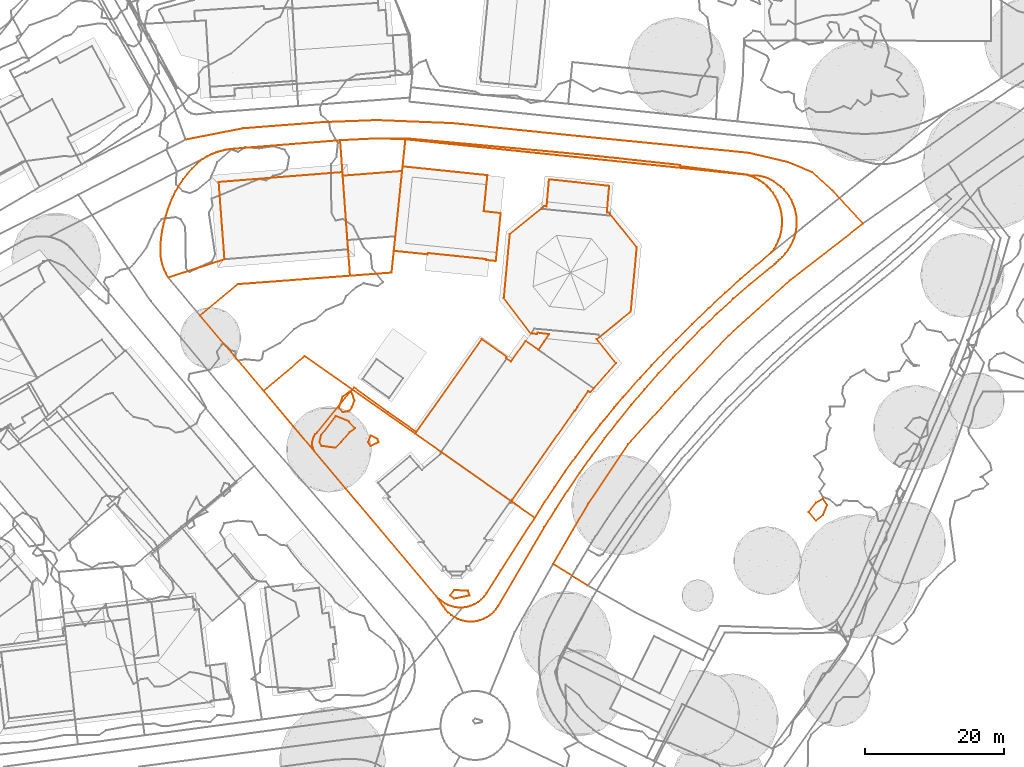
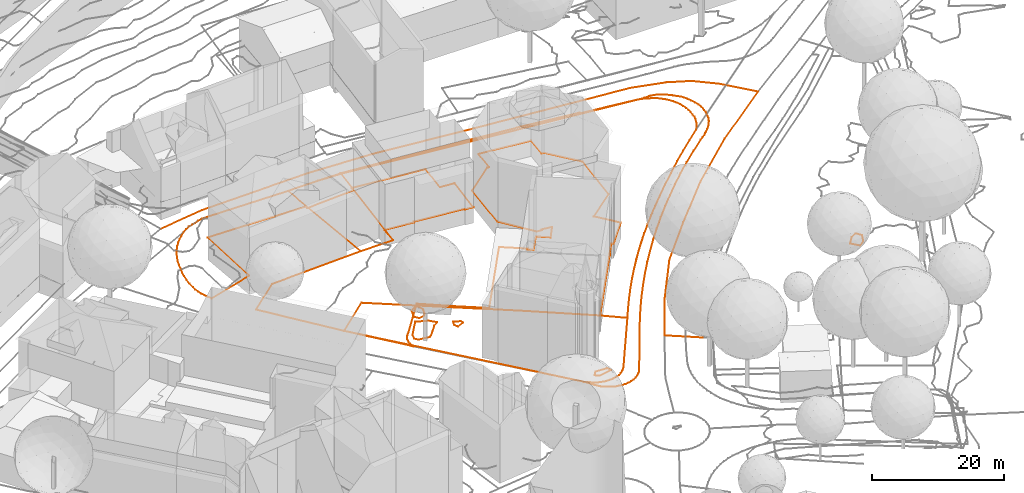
# Not in any storey, part 195 of 494: 13 proxies.
"""IFC2X3 model written with IfcOpenShell, lengths in metres."""

import ifcopenshell
import ifcopenshell.guid

model = None  # the IFC model being written
_history = None  # IfcOwnerHistory: only IFC2X3 demands one
_inside = {}  # id of a spatial element -> (the spatial element, [elements in it])
_under = {}  # id of a project, library or spatial element -> (it, [spatial elements below it])
_declared = {}  # id of a project -> (the project, [libraries it declares])
_typed = {}  # id of a type object -> (the type object, [elements of that type])
_made_of = {}  # id of a material, layer set ... -> (it, [elements and type objects made of it])


def new_model(schema):
    """Start an empty IFC model of exactly this schema.

    Asked for "IFC4X3", IfcOpenShell would pick the latest addendum, in which some entities
    have other attributes; the version numbers below select the first issue.
    IFC2X3 requires an IfcOwnerHistory on every rooted entity: one is made here for all.
    """
    global model, _history
    if schema == "IFC4X3":
        model = ifcopenshell.file(schema_version=(4, 3, 0, 0))
    else:
        model = ifcopenshell.file(schema=schema)
    _inside.clear()
    _under.clear()
    _declared.clear()
    _typed.clear()
    _made_of.clear()
    _history = None
    if model.schema == "IFC2X3":
        org = make("IfcOrganization", Name="unknown")
        user = make(
            "IfcPersonAndOrganization",
            ThePerson=make("IfcPerson", FamilyName="unknown"),
            TheOrganization=org,
        )
        app = make(
            "IfcApplication",
            ApplicationDeveloper=org,
            Version="unknown",
            ApplicationFullName="unknown",
            ApplicationIdentifier="unknown",
        )
        _history = make(
            "IfcOwnerHistory",
            OwningUser=user,
            OwningApplication=app,
            ChangeAction="ADDED",
            CreationDate=0,
        )
    return model


def make(cls, **values):
    """One entity of the class cls with the attributes given. An attribute that is None is left unset."""
    return model.create_entity(
        cls, **{name: value for name, value in values.items() if value is not None}
    )


def entity(cls, *values):
    """Any entity or typed value of the class cls, its attributes in the order of the schema. None: left unset."""
    e = model.create_entity(cls)
    for i, value in enumerate(values):
        if value is not None:
            e[i] = value
    return e


def rooted(cls, **values):
    """An entity with a GlobalId (a new one), such as an element, a storey or a relation."""
    return make(cls, GlobalId=ifcopenshell.guid.new(), OwnerHistory=_history, **values)


def si_unit(unit_type, name, prefix=None):
    """IfcSIUnit, for example si_unit("LENGTHUNIT", "METRE", prefix="MILLI")."""
    return make("IfcSIUnit", UnitType=unit_type, Prefix=prefix, Name=name)


def assignment(units):
    """IfcUnitAssignment: the units of a project."""
    return None if units is None else make("IfcUnitAssignment", Units=units)


def point(xyz):
    """IfcCartesianPoint."""
    return None if xyz is None else make("IfcCartesianPoint", Coordinates=xyz)


def direction(xyz):
    """IfcDirection."""
    return None if xyz is None else make("IfcDirection", DirectionRatios=xyz)


def frame(location, z_axis=None, x_axis=None):
    """IfcAxis2Placement3D, a coordinate frame: its origin and axes. An axis left out is left unset."""
    return make(
        "IfcAxis2Placement3D",
        Location=point(location),
        Axis=direction(z_axis),
        RefDirection=direction(x_axis),
    )


def origin_with_axes():
    """The frame at (0, 0, 0) with the z axis (0, 0, 1) and the x axis (1, 0, 0) written out."""
    return frame((0.0, 0.0, 0.0), z_axis=(0.0, 0.0, 1.0), x_axis=(1.0, 0.0, 0.0))


def place(relative_to, where):
    """IfcLocalPlacement: puts the frame where relative to a parent placement (None: the world)."""
    return make(
        "IfcLocalPlacement", PlacementRelTo=relative_to, RelativePlacement=where
    )


def context(
    kind, dimensions, precision=None, world=None, true_north=None, identifier=None
):
    """IfcGeometricRepresentationContext, for example the 3D "Model" context."""
    return make(
        "IfcGeometricRepresentationContext",
        ContextIdentifier=identifier,
        ContextType=kind,
        CoordinateSpaceDimension=dimensions,
        Precision=precision,
        WorldCoordinateSystem=world,
        TrueNorth=true_north,
    )


def subcontext(parent, identifier, kind, view, scale=None):
    """IfcGeometricRepresentationSubContext, for example "Body" below "Model"."""
    return make(
        "IfcGeometricRepresentationSubContext",
        ContextIdentifier=identifier,
        ContextType=kind,
        ParentContext=parent,
        TargetScale=scale,
        TargetView=view,
    )


def project(units=None, contexts=None):
    """IfcProject with its units and contexts."""
    return rooted(
        "IfcProject",
        Name="project",
        RepresentationContexts=contexts,
        UnitsInContext=assignment(units),
    )


def shape(context_of_items, identifier, shape_type, items):
    """IfcShapeRepresentation: the items that make up one representation, for example the "Body"."""
    return make(
        "IfcShapeRepresentation",
        ContextOfItems=context_of_items,
        RepresentationIdentifier=identifier,
        RepresentationType=shape_type,
        Items=items,
    )


def made_of(thing, what):
    """Note that an element or type object is made of a material, layer set ...; save() writes the relation."""
    if what is not None:
        _made_of.setdefault(what.id(), (what, []))[1].append(thing)
    return thing


def element(
    cls,
    number,
    at=None,
    inside=None,
    cuts=None,
    type_object=None,
    material=None,
    context=None,
    identifier="Body",
    shape_type=None,
    held_by="IfcProductDefinitionShape",
    body=None,
    shapes=None,
    **own,
):
    """One element of the class cls, such as IfcWall. Its Tag is "e" and its number.

    at: its placement. inside: the storey or other place that contains it. cuts: it is an
    opening in that element (IfcRelVoidsElement). A single representation is given by context,
    identifier, shape_type and body (its items); several are given by shapes. held_by: the class
    of the entity that holds the representations. save() writes the other relations.
    """
    e = rooted(cls, Tag="e%d" % number, ObjectPlacement=at, **own)
    if body is not None:
        shapes = [shape(context, identifier, shape_type, body)]
    if shapes is not None:
        e.Representation = make(held_by, Representations=shapes)
    if inside is not None:
        _inside.setdefault(inside.id(), (inside, []))[1].append(e)
    if cuts is not None:
        rooted(
            "IfcRelVoidsElement", RelatingBuildingElement=cuts, RelatedOpeningElement=e
        )
    if type_object is not None:
        _typed.setdefault(type_object.id(), (type_object, []))[1].append(e)
    return made_of(e, material)


def aggregate(whole, parts):
    """IfcRelAggregates: a whole, such as a stair, and the parts it consists of."""
    return rooted("IfcRelAggregates", RelatingObject=whole, RelatedObjects=parts)


def save(model, path):
    """Write the relations noted so far, then the file.

    IfcRelAggregates (storeys below a building ...), IfcRelContainedInSpatialStructure (elements
    in a storey), IfcRelDefinesByType, IfcRelAssociatesMaterial and IfcRelDeclares: one each for
    every whole, place, type object, material and project.
    """
    for whole, parts in _under.values():
        aggregate(whole, parts)
    for where, things in _inside.values():
        rooted(
            "IfcRelContainedInSpatialStructure",
            RelatedElements=things,
            RelatingStructure=where,
        )
    for kind, things in _typed.values():
        rooted("IfcRelDefinesByType", RelatedObjects=things, RelatingType=kind)
    for what, things in _made_of.values():
        rooted("IfcRelAssociatesMaterial", RelatedObjects=things, RelatingMaterial=what)
    for by, libraries in _declared.values():
        rooted("IfcRelDeclares", RelatingContext=by, RelatedDefinitions=libraries)
    model.write(path)


model = new_model("IFC2X3")

# Units and contexts
model_context = context("Model", 3, precision=1e-05, world=origin_with_axes())
body_context = subcontext(model_context, "Body", "Model", "MODEL_VIEW")
ifc_project = project(units=[si_unit("AREAUNIT", "SQUARE_METRE"), si_unit("LENGTHUNIT", "METRE")], contexts=[model_context])

# Proxies
proxy_1_placement = place(None, frame((595.900732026, 212.6687366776, 502.45), z_axis=(0.0, 0.0, 1.0), x_axis=(1.0, 0.0, 0.0)))
element("IfcBuildingElementProxy", 1, at=proxy_1_placement, Name="Road 128", ObjectType="NOTDEFINED", context=body_context, shape_type="GeometricCurveSet", body=[
    entity("IfcGeometricCurveSet", [entity("IfcPolyline", [entity("IfcCartesianPoint", [0.0, 0.0, 0.0]), entity("IfcCartesianPoint", [5.0779999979, 8.7149997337, -0.186]), entity("IfcCartesianPoint", [10.805999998, 17.2319994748, -0.217]), entity("IfcCartesianPoint", [17.5610000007, 24.7209992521, -0.237]), entity("IfcCartesianPoint", [25.1959999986, 32.7969990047, -0.33]), entity("IfcCartesianPoint", [34.0069999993, 40.7269987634, -0.301]), entity("IfcCartesianPoint", [44.5799999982, 48.9509985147, -0.295])])]),
])
proxy_2_placement = place(None, frame((543.1227320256, 273.6597348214, 503.61), z_axis=(0.0, 0.0, 1.0), x_axis=(1.0, 0.0, 0.0)))
element("IfcBuildingElementProxy", 2, at=proxy_2_placement, Name="Road 158", ObjectType="NOTDEFINED", context=body_context, shape_type="GeometricCurveSet", body=[
    entity("IfcGeometricCurveSet", [entity("IfcPolyline", [entity("IfcCartesianPoint", [0.0, 0.0, 0.0]), entity("IfcCartesianPoint", [8.2239999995, 1.6159999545, -0.385]), entity("IfcCartesianPoint", [19.6779999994, 2.4969999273, -0.881]), entity("IfcCartesianPoint", [27.4600000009, 2.7909999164, -0.976]), entity("IfcCartesianPoint", [38.3260000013, 2.3499999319, -1.045]), entity("IfcCartesianPoint", [56.9750000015, 0.4409999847, -1.126]), entity("IfcCartesianPoint", [80.910999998, -1.9089999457, -1.165]), entity("IfcCartesianPoint", [86.4910000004, -3.2299998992, -1.281]), entity("IfcCartesianPoint", [90.0150000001, -4.6989998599, -1.377]), entity("IfcCartesianPoint", [93.098999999, -7.4889997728, -1.265]), entity("IfcCartesianPoint", [97.3579999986, -12.0399996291, -1.455])])]),
])
proxy_3_placement = place(None, frame((595.900732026, 212.6687366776, 502.45), z_axis=(0.0, 0.0, 1.0), x_axis=(1.0, 0.0, 0.0)))
element("IfcBuildingElementProxy", 3, at=proxy_3_placement, Name="Road 188", ObjectType="NOTDEFINED", context=body_context, shape_type="GeometricCurveSet", body=[
    entity("IfcGeometricCurveSet", [entity("IfcPolyline", [entity("IfcCartesianPoint", [4.9919999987, -3.0839999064, -0.274]), entity("IfcCartesianPoint", [0.0, 0.0, 0.0])])]),
])
proxy_4_placement = place(None, frame((579.1977320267, 208.0077160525, 502.5564007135), z_axis=(0.0, 0.0, 1.0), x_axis=(1.0, 0.0, 0.0)))
element("IfcBuildingElementProxy", 4, at=proxy_4_placement, Name="Roads Outline 83", ObjectType="NOTDEFINED", context=body_context, shape_type="GeometricCurveSet", body=[
    entity("IfcGeometricCurveSet", [entity("IfcPolyline", [entity("IfcCartesianPoint", [0.0, 0.0, 0.0]), entity("IfcCartesianPoint", [0.3590000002, -0.3800000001, 0.0424527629]), entity("IfcCartesianPoint", [0.7600000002, -0.7150000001, 0.0752232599]), entity("IfcCartesianPoint", [1.1979999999, -1.0009999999, 0.0715688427]), entity("IfcCartesianPoint", [1.6660000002, -1.2339999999, 0.0623619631]), entity("IfcCartesianPoint", [2.1579999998, -1.4100000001, 0.0692452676]), entity("IfcCartesianPoint", [2.6680000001, -1.5279999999, 0.0791574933]), entity("IfcCartesianPoint", [3.1869999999, -1.584, 0.0808113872]), entity("IfcCartesianPoint", [3.71, -1.5800000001, 0.0688471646]), entity("IfcCartesianPoint", [4.2999999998, -1.4980000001, 0.059788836]), entity("IfcCartesianPoint", [4.8739999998, -1.3370000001, 0.0523966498]), entity("IfcCartesianPoint", [5.4210000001, -1.102, 0.0639608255]), entity("IfcCartesianPoint", [5.932, -0.7949999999, 0.064186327]), entity("IfcCartesianPoint", [6.3969999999, -0.423, 0.0574889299]), entity("IfcCartesianPoint", [6.8089999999, 0.0079999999, 0.0643823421]), entity("IfcCartesianPoint", [7.159, 0.49, 0.0695829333]), entity("IfcCartesianPoint", [9.199, 3.7009999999, 0.0716071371]), entity("IfcCartesianPoint", [14.068, 11.3019999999, 0.0129032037]), entity("IfcCartesianPoint", [15.4750000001, 13.5349999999, 0.0167357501]), entity("IfcCartesianPoint", [16.9240000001, 15.7409999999, -0.0007565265]), entity("IfcCartesianPoint", [18.4169999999, 17.9180000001, -0.0260400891]), entity("IfcCartesianPoint", [19.9509999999, 20.0659999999, -0.0243885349]), entity("IfcCartesianPoint", [21.5270000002, 22.183, -0.0427461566]), entity("IfcCartesianPoint", [22.9360000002, 24.004, -0.0676520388]), entity("IfcCartesianPoint", [24.3769999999, 25.801, -0.0819419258]), entity("IfcCartesianPoint", [25.8480000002, 27.5729999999, -0.086486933]), entity("IfcCartesianPoint", [26.6880000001, 28.558, -0.1140318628]), entity("IfcCartesianPoint", [27.537, 29.534, -0.130143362]), entity("IfcCartesianPoint", [29.2000000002, 31.409, -0.1773657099]), entity("IfcCartesianPoint", [30.898, 33.253, -0.2167131]), entity("IfcCartesianPoint", [32.6299999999, 35.0649999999, -0.2143534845]), entity("IfcCartesianPoint", [34.3960000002, 36.845, -0.2132758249]), entity("IfcCartesianPoint", [36.6970000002, 39.1510000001, -0.2264701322]), entity("IfcCartesianPoint", [39.0410000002, 41.415, -0.214907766]), entity("IfcCartesianPoint", [41.4249999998, 43.6359999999, -0.2213220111]), entity("IfcCartesianPoint", [43.6000000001, 45.5929999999, -0.2131289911]), entity("IfcCartesianPoint", [45.807, 47.513, -0.2358274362]), entity("IfcCartesianPoint", [48.0449999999, 49.3969999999, -0.2433498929]), entity("IfcCartesianPoint", [48.443, 49.9350000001, -0.2273266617]), entity("IfcCartesianPoint", [48.7880000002, 50.5079999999, -0.2118206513]), entity("IfcCartesianPoint", [49.077, 51.112, -0.1869081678]), entity("IfcCartesianPoint", [49.3059999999, 51.7409999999, -0.1574470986]), entity("IfcCartesianPoint", [49.4750000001, 52.388, -0.1746721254]), entity("IfcCartesianPoint", [49.5810000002, 53.0489999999, -0.1814962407]), entity("IfcCartesianPoint", [49.6239999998, 53.7169999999, -0.1829092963]), entity("IfcCartesianPoint", [49.611, 54.371, -0.18296651]), entity("IfcCartesianPoint", [49.537, 55.0219999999, -0.1664368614]), entity("IfcCartesianPoint", [49.4029999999, 55.662, -0.1312933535]), entity("IfcCartesianPoint", [49.21, 56.2879999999, -0.1008875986]), entity("IfcCartesianPoint", [48.9590000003, 56.892, -0.0839931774]), entity("IfcCartesianPoint", [48.6529999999, 57.4709999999, -0.1032972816]), entity("IfcCartesianPoint", [48.2940000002, 58.0179999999, -0.0991256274]), entity("IfcCartesianPoint", [47.8880000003, 58.514, -0.0910940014]), entity("IfcCartesianPoint", [47.4369999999, 58.9709999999, -0.1089391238]), entity("IfcCartesianPoint", [46.9470000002, 59.3840000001, -0.0757517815]), entity("IfcCartesianPoint", [46.4210000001, 59.7509999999, -0.1313915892]), entity("IfcCartesianPoint", [45.8640000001, 60.068, -0.1866870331]), entity("IfcCartesianPoint", [45.0320000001, 60.4919999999, -0.1698836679]), entity("IfcCartesianPoint", [45.4590000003, 60.5, -0.1602965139]), entity("IfcCartesianPoint", [45.8850000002, 60.483, -0.1526318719]), entity("IfcCartesianPoint", [46.1940000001, 60.4550000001, -0.1390029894]), entity("IfcCartesianPoint", [46.5019999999, 60.4139999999, -0.1187599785]), entity("IfcCartesianPoint", [47.0090000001, 60.287, -0.0747958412]), entity("IfcCartesianPoint", [47.5010000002, 60.1129999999, -0.0774243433]), entity("IfcCartesianPoint", [47.9750000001, 59.892, -0.0774395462]), entity("IfcCartesianPoint", [48.4939999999, 59.5789999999, -0.0932857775]), entity("IfcCartesianPoint", [48.9750000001, 59.2109999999, -0.1044669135]), entity("IfcCartesianPoint", [49.4530000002, 58.852, -0.1333072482]), entity("IfcCartesianPoint", [49.895, 58.449, -0.1626700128]), entity("IfcCartesianPoint", [50.2960000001, 58.0060000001, -0.1397016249]), entity("IfcCartesianPoint", [50.6520000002, 57.5260000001, -0.1413005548]), entity("IfcCartesianPoint", [50.9670000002, 56.9569999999, -0.1656156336]), entity("IfcCartesianPoint", [51.2119999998, 56.3540000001, -0.1809267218]), entity("IfcCartesianPoint", [51.4580000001, 55.6439999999, -0.2098822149]), entity("IfcCartesianPoint", [51.6460000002, 54.9169999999, -0.2201493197]), entity("IfcCartesianPoint", [51.7179999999, 54.3119999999, -0.224620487]), entity("IfcCartesianPoint", [51.7349999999, 53.702, -0.2256994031]), entity("IfcCartesianPoint", [51.7110000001, 53.2519999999, -0.2329984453]), entity("IfcCartesianPoint", [51.6570000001, 52.804, -0.2397121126]), entity("IfcCartesianPoint", [51.5970000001, 52.4979999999, -0.2438920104]), entity("IfcCartesianPoint", [51.5290000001, 52.1939999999, -0.2503272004]), entity("IfcCartesianPoint", [51.3829999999, 51.6529999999, -0.2677885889]), entity("IfcCartesianPoint", [51.2080000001, 51.121, -0.2700185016]), entity("IfcCartesianPoint", [50.8709999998, 50.4299999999, -0.2721337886]), entity("IfcCartesianPoint", [50.466, 49.7760000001, -0.2870448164]), entity("IfcCartesianPoint", [50.0699999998, 49.2549999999, -0.2871296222]), entity("IfcCartesianPoint", [49.6310000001, 48.7689999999, -0.273504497]), entity("IfcCartesianPoint", [49.1520000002, 48.3219999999, -0.2785278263]), entity("IfcCartesianPoint", [48.861, 48.03, -0.2796414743]), entity("IfcCartesianPoint", [48.5610000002, 47.7490000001, -0.293823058]), entity("IfcCartesianPoint", [47.969, 47.287, -0.3117227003]), entity("IfcCartesianPoint", [47.3790000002, 46.821, -0.2851792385]), entity("IfcCartesianPoint", [44.9679999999, 44.8300000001, -0.2864771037]), entity("IfcCartesianPoint", [42.6069999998, 42.78, -0.2795153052]), entity("IfcCartesianPoint", [40.298, 40.672, -0.2417386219]), entity("IfcCartesianPoint", [38.145, 38.6040000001, -0.2767343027]), entity("IfcCartesianPoint", [36.0410000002, 36.487, -0.2404656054]), entity("IfcCartesianPoint", [33.9390000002, 34.304, -0.2642361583]), entity("IfcCartesianPoint", [31.8840000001, 32.0759999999, -0.2096940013]), entity("IfcCartesianPoint", [29.8760000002, 29.8059999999, -0.208683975]), entity("IfcCartesianPoint", [27.9169999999, 27.4939999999, -0.184873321]), entity("IfcCartesianPoint", [26.0070000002, 25.1410000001, -0.1868196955]), entity("IfcCartesianPoint", [24.1469999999, 22.7479999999, -0.1558668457]), entity("IfcCartesianPoint", [22.2999999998, 20.264, -0.1449114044]), entity("IfcCartesianPoint", [20.5060000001, 17.7409999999, -0.1295588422]), entity("IfcCartesianPoint", [18.7680000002, 15.1799999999, -0.0829376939]), entity("IfcCartesianPoint", [17.085, 12.5819999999, -0.0790655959]), entity("IfcCartesianPoint", [15.4580000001, 9.949, -0.0855185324]), entity("IfcCartesianPoint", [8.8199999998, -1.352, -0.040741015]), entity("IfcCartesianPoint", [8.5070000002, -1.8160000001, -0.0063327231]), entity("IfcCartesianPoint", [8.139, -2.2390000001, 0.0148359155]), entity("IfcCartesianPoint", [7.7230000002, -2.6140000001, 0.0114550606]), entity("IfcCartesianPoint", [7.2650000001, -2.9350000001, 0.005221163]), entity("IfcCartesianPoint", [6.77, -3.1980000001, 0.0051696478]), entity("IfcCartesianPoint", [6.247, -3.399, 0.0088276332]), entity("IfcCartesianPoint", [5.7039999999, -3.5350000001, 0.0119191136]), entity("IfcCartesianPoint", [5.148, -3.6030000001, 0.0098638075]), entity("IfcCartesianPoint", [4.5950000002, -3.6030000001, 0.0089602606]), entity("IfcCartesianPoint", [4.0470000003, -3.5360000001, 0.0072576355]), entity("IfcCartesianPoint", [3.5100000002, -3.4040000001, 0.0046129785]), entity("IfcCartesianPoint", [2.9930000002, -3.2080000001, 0.0082097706]), entity("IfcCartesianPoint", [2.503, -2.952, 0.0040304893]), entity("IfcCartesianPoint", [2.0520000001, -2.642, -0.0033642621]), entity("IfcCartesianPoint", [1.6409999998, -2.28, -0.0291338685]), entity("IfcCartesianPoint", [1.2760000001, -1.872, -0.0330047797]), entity("IfcCartesianPoint", [0.9619999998, -1.4240000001, -0.0339466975]), entity("IfcCartesianPoint", [0.0, 0.0, 0.0])])]),
])
proxy_5_placement = place(None, frame((539.4997320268, 257.5777160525, 503.8674728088), z_axis=(0.0, 0.0, 1.0), x_axis=(1.0, 0.0, 0.0)))
element("IfcBuildingElementProxy", 5, at=proxy_5_placement, Name="Roads Outline 126", ObjectType="NOTDEFINED", context=body_context, shape_type="GeometricCurveSet", body=[
    entity("IfcGeometricCurveSet", [entity("IfcPolyline", [entity("IfcCartesianPoint", [0.0, 0.0, 0.0]), entity("IfcCartesianPoint", [0.0209999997, 1.0109999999, 0.0011616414]), entity("IfcCartesianPoint", [0.1069999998, 2.0189999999, 0.0406999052]), entity("IfcCartesianPoint", [0.2549999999, 3.0189999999, 0.0854804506]), entity("IfcCartesianPoint", [0.4669999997, 4.0079999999, 0.0940732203]), entity("IfcCartesianPoint", [0.7399999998, 4.9809999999, 0.1199991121]), entity("IfcCartesianPoint", [1.0189999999, 5.9469999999, 0.1523369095]), entity("IfcCartesianPoint", [1.3569999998, 6.8939999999, 0.1753311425]), entity("IfcCartesianPoint", [1.7549999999, 7.818, 0.1556252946]), entity("IfcCartesianPoint", [2.21, 8.7139999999, 0.1425921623]), entity("IfcCartesianPoint", [2.7199999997, 9.581, 0.1182464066]), entity("IfcCartesianPoint", [3.29, 10.406, 0.0866473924]), entity("IfcCartesianPoint", [3.9099999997, 11.1939999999, 0.0485062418]), entity("IfcCartesianPoint", [4.5789999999, 11.9409999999, 0.0063919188]), entity("IfcCartesianPoint", [5.2930000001, 12.6449999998, -0.0083320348]), entity("IfcCartesianPoint", [6.0499999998, 13.3019999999, 0.0060021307]), entity("IfcCartesianPoint", [6.6939999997, 13.6679999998, 0.0478167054]), entity("IfcCartesianPoint", [7.3629999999, 13.9849999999, 0.0887041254]), entity("IfcCartesianPoint", [8.054, 14.2529999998, 0.0795498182]), entity("IfcCartesianPoint", [8.7169999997, 14.4549999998, 0.056403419]), entity("IfcCartesianPoint", [9.3929999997, 14.6109999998, 0.1361446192]), entity("IfcCartesianPoint", [10.0779999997, 14.72, 0.1618897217]), entity("IfcCartesianPoint", [10.7689999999, 14.7819999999, 0.1468010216]), entity("IfcCartesianPoint", [25.8189999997, 15.9819999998, -0.9711102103]), entity("IfcCartesianPoint", [31.2369999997, 16.254, -1.1396515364]), entity("IfcCartesianPoint", [35.213, 16.2509999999, -1.161028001]), entity("IfcCartesianPoint", [56.1599999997, 14.345, -1.2730019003]), entity("IfcCartesianPoint", [58.4580000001, 14.125, -1.3057171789]), entity("IfcCartesianPoint", [60.7549999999, 13.8999999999, -1.3185954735]), entity("IfcCartesianPoint", [62.9199999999, 13.683, -1.3128490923]), entity("IfcCartesianPoint", [65.085, 13.4609999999, -1.3110824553]), entity("IfcCartesianPoint", [74.6459999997, 12.4249999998, -1.4734096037]), entity("IfcCartesianPoint", [74.6609999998, 12.254, -1.4860407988]), entity("IfcCartesianPoint", [84.1039999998, 11.0649999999, -1.5093764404]), entity("IfcCartesianPoint", [84.4210000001, 11.0089999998, -1.4919349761]), entity("IfcCartesianPoint", [84.73, 10.9219999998, -1.4809557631]), entity("IfcCartesianPoint", [85.5619999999, 10.4979999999, -1.4977591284]), entity("IfcCartesianPoint", [86.1189999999, 10.1809999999, -1.4424636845]), entity("IfcCartesianPoint", [86.645, 9.814, -1.3868238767]), entity("IfcCartesianPoint", [87.1349999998, 9.4009999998, -1.4200112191]), entity("IfcCartesianPoint", [87.5860000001, 8.9439999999, -1.4021660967]), entity("IfcCartesianPoint", [87.9920000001, 8.4479999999, -1.4101977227]), entity("IfcCartesianPoint", [88.3509999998, 7.9009999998, -1.4143693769]), entity("IfcCartesianPoint", [88.6570000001, 7.3219999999, -1.3950652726]), entity("IfcCartesianPoint", [88.9079999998, 6.7179999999, -1.4119596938]), entity("IfcCartesianPoint", [89.1009999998, 6.0919999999, -1.4423654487]), entity("IfcCartesianPoint", [89.2349999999, 5.4519999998, -1.4775089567]), entity("IfcCartesianPoint", [89.3089999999, 4.801, -1.4940386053]), entity("IfcCartesianPoint", [89.3219999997, 4.1469999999, -1.4939813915]), entity("IfcCartesianPoint", [89.2790000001, 3.4789999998, -1.492568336]), entity("IfcCartesianPoint", [89.173, 2.818, -1.4857442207]), entity("IfcCartesianPoint", [89.0039999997, 2.1709999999, -1.4685191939]), entity("IfcCartesianPoint", [88.7749999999, 1.5419999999, -1.4979802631]), entity("IfcCartesianPoint", [88.486, 0.9379999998, -1.5228927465]), entity("IfcCartesianPoint", [88.1409999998, 0.365, -1.538398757]), entity("IfcCartesianPoint", [87.7429999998, -0.1730000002, -1.5544219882]), entity("IfcCartesianPoint", [85.5049999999, -2.057, -1.5468995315]), entity("IfcCartesianPoint", [83.298, -3.9770000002, -1.5242010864]), entity("IfcCartesianPoint", [81.1229999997, -5.9340000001, -1.5323941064]), entity("IfcCartesianPoint", [78.7390000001, -8.155, -1.5259798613]), entity("IfcCartesianPoint", [76.395, -10.419, -1.5375422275]), entity("IfcCartesianPoint", [74.094, -12.7250000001, -1.5243479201]), entity("IfcCartesianPoint", [72.3279999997, -14.5050000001, -1.5254255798]), entity("IfcCartesianPoint", [70.5959999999, -16.317, -1.5277851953]), entity("IfcCartesianPoint", [68.898, -18.1610000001, -1.4884378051]), entity("IfcCartesianPoint", [67.2349999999, -20.0360000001, -1.4412154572]), entity("IfcCartesianPoint", [66.3859999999, -21.0120000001, -1.4251039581]), entity("IfcCartesianPoint", [65.5460000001, -21.9970000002, -1.3975590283]), entity("IfcCartesianPoint", [64.0749999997, -23.7690000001, -1.3930140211]), entity("IfcCartesianPoint", [62.6340000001, -25.5660000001, -1.3787241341]), entity("IfcCartesianPoint", [61.2250000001, -27.3870000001, -1.3538182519]), entity("IfcCartesianPoint", [59.6489999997, -29.5040000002, -1.3354606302]), entity("IfcCartesianPoint", [58.1149999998, -31.652, -1.3371121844]), entity("IfcCartesianPoint", [56.622, -33.8290000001, -1.3118286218]), entity("IfcCartesianPoint", [55.173, -36.0350000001, -1.2943363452]), entity("IfcCartesianPoint", [53.7659999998, -38.2680000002, -1.2981688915]), entity("IfcCartesianPoint", [50.4380000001, -35.9280000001, -1.1167409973]), entity("IfcCartesianPoint", [50.6159999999, -35.6730000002, -1.1463144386]), entity("IfcCartesianPoint", [50.5589999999, -35.6340000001, -1.1384913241]), entity("IfcCartesianPoint", [59.5039999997, -22.8390000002, -1.3266835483]), entity("IfcCartesianPoint", [59.5609999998, -22.8790000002, -1.3283397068]), entity("IfcCartesianPoint", [59.9159999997, -22.371, -1.338736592]), entity("IfcCartesianPoint", [59.8589999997, -22.331, -1.335636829]), entity("IfcCartesianPoint", [61.4569999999, -20.0450000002, -1.3072442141]), entity("IfcCartesianPoint", [61.727, -20.2340000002, -1.3280536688]), entity("IfcCartesianPoint", [62.2199999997, -19.6760000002, -1.3098638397]), entity("IfcCartesianPoint", [65.4369999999, -16.0360000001, -1.2956088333]), entity("IfcCartesianPoint", [62.7009999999, -12.6170000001, -1.2384746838]), entity("IfcCartesianPoint", [67.574, -8.6390000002, -1.2455507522]), entity("IfcCartesianPoint", [68.4350000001, 0.632, -1.1876587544]), entity("IfcCartesianPoint", [64.4610000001, 5.5769999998, -1.1639652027]), entity("IfcCartesianPoint", [64.1429999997, 5.6089999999, -1.1654279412]), entity("IfcCartesianPoint", [64.4699999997, 9.4249999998, -1.2638045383]), entity("IfcCartesianPoint", [55.8309999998, 10.3629999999, -1.2325678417]), entity("IfcCartesianPoint", [55.4809999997, 6.473, -1.2054203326]), entity("IfcCartesianPoint", [55.122, 6.5089999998, -1.2068257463]), entity("IfcCartesianPoint", [50.193, 2.4839999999, -1.264374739]), entity("IfcCartesianPoint", [49.341, -6.6800000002, -1.141777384]), entity("IfcCartesianPoint", [53.2229999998, -11.7660000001, -1.2334073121]), entity("IfcCartesianPoint", [54.1149999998, -11.8630000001, -1.2298143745]), entity("IfcCartesianPoint", [54.176, -11.662, -1.2307534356]), entity("IfcCartesianPoint", [55.8399999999, -11.878, -1.2321534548]), entity("IfcCartesianPoint", [55.1349999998, -12.915, -1.2278726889]), entity("IfcCartesianPoint", [54.298, -14.1460000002, -1.2478644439]), entity("IfcCartesianPoint", [52.4509999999, -12.8570000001, -1.2203164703]), entity("IfcCartesianPoint", [50.3479999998, -15.8280000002, -1.1403248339]), entity("IfcCartesianPoint", [49.6299999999, -15.3190000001, -1.1265718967]), entity("IfcCartesianPoint", [49.7569999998, -15.1400000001, -1.1276180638]), entity("IfcCartesianPoint", [46.1719999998, -12.594, -1.1257786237]), entity("IfcCartesianPoint", [36.7539999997, -25.9370000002, -0.9809184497]), entity("IfcCartesianPoint", [32.7289999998, -23.1060000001, -0.9913487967]), entity("IfcCartesianPoint", [27.7919999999, -19.523, -0.9469287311]), entity("IfcCartesianPoint", [22.4849999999, -26.013, -0.887196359]), entity("IfcCartesianPoint", [22.2519999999, -26.2650000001, -0.928787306]), entity("IfcCartesianPoint", [22.0630000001, -26.5510000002, -0.9498374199]), entity("IfcCartesianPoint", [21.9219999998, -26.8640000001, -0.9514868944]), entity("IfcCartesianPoint", [21.8319999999, -27.1950000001, -1.0179802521]), entity("IfcCartesianPoint", [21.7949999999, -27.5530000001, -1.0929269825]), entity("IfcCartesianPoint", [21.8189999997, -27.9130000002, -1.1548594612]), entity("IfcCartesianPoint", [21.9029999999, -28.263, -1.2474779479]), entity("IfcCartesianPoint", [22.0439999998, -28.594, -1.3132683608]), entity("IfcCartesianPoint", [21.8319999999, -28.3420000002, -1.2940182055]), entity("IfcCartesianPoint", [14.8189999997, -20.01, -1.1321424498]), entity("IfcCartesianPoint", [5.7199999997, -9.1800000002, -0.5850076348]), entity("IfcCartesianPoint", [11.0899999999, -4.699, -0.4419760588]), entity("IfcCartesianPoint", [27.2439999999, -3.486, -0.792379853]), entity("IfcCartesianPoint", [33.2080000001, -3.037, -1.1204859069]), entity("IfcCartesianPoint", [33.5320000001, 0.088, -1.2266449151]), entity("IfcCartesianPoint", [38.406, -0.4110000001, -1.2525041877]), entity("IfcCartesianPoint", [38.4240000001, -0.2320000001, -1.2513447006]), entity("IfcCartesianPoint", [46.4309999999, -1.0600000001, -1.2581269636]), entity("IfcCartesianPoint", [46.8079999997, -1.0990000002, -1.2671760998]), entity("IfcCartesianPoint", [46.7949999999, -1.226, -1.2747568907]), entity("IfcCartesianPoint", [48.1910000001, -1.3770000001, -1.2980663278]), entity("IfcCartesianPoint", [48.8829999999, 5.5089999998, -1.284609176]), entity("IfcCartesianPoint", [46.4580000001, 5.784, -1.3101241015]), entity("IfcCartesianPoint", [46.8659999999, 9.8779999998, -1.3068893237]), entity("IfcCartesianPoint", [46.9729999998, 10.9549999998, -1.2883287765]), entity("IfcCartesianPoint", [34.7930000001, 12.2219999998, -1.3005031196]), entity("IfcCartesianPoint", [34.7239999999, 11.5589999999, -1.295752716]), entity("IfcCartesianPoint", [26.1919999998, 10.8859999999, -1.2105462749]), entity("IfcCartesianPoint", [26.1540000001, 11.406, -1.2319736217]), entity("IfcCartesianPoint", [8.3739999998, 9.983, 0.1883046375]), entity("IfcCartesianPoint", [9.2039999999, -1.1130000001, -0.4050926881]), entity("IfcCartesianPoint", [1.1399999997, -3.74, -0.1950307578]), entity("IfcCartesianPoint", [0.8049999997, -3.1710000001, -0.1468693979]), entity("IfcCartesianPoint", [0.5249999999, -2.5730000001, -0.1203539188]), entity("IfcCartesianPoint", [0.3029999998, -1.9510000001, -0.1110371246]), entity("IfcCartesianPoint", [0.1409999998, -1.311, -0.064222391]), entity("IfcCartesianPoint", [0.0389999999, -0.659, -0.02537654]), entity("IfcCartesianPoint", [0.0, 0.0, 0.0])])]),
])
proxy_6_placement = place(None, frame((554.3187320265, 237.5677160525, 502.735330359), z_axis=(0.0, 0.0, 1.0), x_axis=(1.0, 0.0, 0.0)))
element("IfcBuildingElementProxy", 6, at=proxy_6_placement, Name="Cadastre 30", ObjectType="NOTDEFINED", context=body_context, shape_type="GeometricCurveSet", body=[
    entity("IfcGeometricCurveSet", [entity("IfcPolyline", [entity("IfcCartesianPoint", [0.0, 0.0, 0.0]), entity("IfcCartesianPoint", [5.9200000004, 4.9709999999, 0.1019081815]), entity("IfcCartesianPoint", [25.5650000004, -8.8470000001, 0.1571352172]), entity("IfcCartesianPoint", [35.5860000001, -15.895, 0.0191405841]), entity("IfcCartesianPoint", [38.9470000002, -18.2580000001, -0.1660264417]), entity("IfcCartesianPoint", [34.0780000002, -25.8590000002, -0.1073225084]), entity("IfcCartesianPoint", [32.0380000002, -29.0700000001, -0.1093467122]), entity("IfcCartesianPoint", [31.6880000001, -29.5520000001, -0.1145473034]), entity("IfcCartesianPoint", [31.2760000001, -29.983, -0.1214407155]), entity("IfcCartesianPoint", [30.8110000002, -30.355, -0.1147433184]), entity("IfcCartesianPoint", [30.3000000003, -30.662, -0.1149688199]), entity("IfcCartesianPoint", [29.753, -30.8970000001, -0.1265329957]), entity("IfcCartesianPoint", [29.179, -31.0580000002, -0.1191408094]), entity("IfcCartesianPoint", [28.5890000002, -31.1400000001, -0.1100824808]), entity("IfcCartesianPoint", [28.0660000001, -31.1440000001, -0.0981182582]), entity("IfcCartesianPoint", [27.5470000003, -31.088, -0.0997721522]), entity("IfcCartesianPoint", [27.037, -30.9700000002, -0.1096843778]), entity("IfcCartesianPoint", [26.5450000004, -30.794, -0.1165676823]), entity("IfcCartesianPoint", [26.077, -30.561, -0.1073608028]), entity("IfcCartesianPoint", [25.6390000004, -30.2750000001, -0.1037063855]), entity("IfcCartesianPoint", [25.2380000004, -29.9400000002, -0.1364768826]), entity("IfcCartesianPoint", [24.8790000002, -29.5600000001, -0.1789296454]), entity("IfcCartesianPoint", [0.0, 0.0, 0.0])])]),
])
proxy_7_placement = place(None, frame((545.2197320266, 248.3977160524, 503.2824651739), z_axis=(0.0, 0.0, 1.0), x_axis=(1.0, 0.0, 0.0)))
element("IfcBuildingElementProxy", 7, at=proxy_7_placement, Name="Cadastre 118", ObjectType="NOTDEFINED", context=body_context, shape_type="GeometricCurveSet", body=[
    entity("IfcGeometricCurveSet", [entity("IfcPolyline", [entity("IfcCartesianPoint", [0.0, 0.0, 0.0]), entity("IfcCartesianPoint", [5.3700000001, 4.4810000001, 0.1430315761]), entity("IfcCartesianPoint", [21.5240000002, 5.6940000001, -0.2073722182]), entity("IfcCartesianPoint", [27.4880000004, 6.1430000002, -0.5354782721]), entity("IfcCartesianPoint", [29.477, 25.284, -0.5823615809]), entity("IfcCartesianPoint", [78.4530000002, 20.2070000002, -0.921222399]), entity("IfcCartesianPoint", [79.0920000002, 20.0050000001, -0.900646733]), entity("IfcCartesianPoint", [79.7090000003, 19.7420000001, -0.9094304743]), entity("IfcCartesianPoint", [80.2990000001, 19.422, -0.8740106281]), entity("IfcCartesianPoint", [80.8540000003, 19.047, -0.8039504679]), entity("IfcCartesianPoint", [81.372, 18.6200000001, -0.834022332]), entity("IfcCartesianPoint", [81.8460000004, 18.1460000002, -0.8184510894]), entity("IfcCartesianPoint", [82.2720000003, 17.628, -0.8251900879]), entity("IfcCartesianPoint", [82.6310000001, 17.081, -0.8293617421]), entity("IfcCartesianPoint", [82.9370000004, 16.5020000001, -0.8100576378]), entity("IfcCartesianPoint", [83.1880000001, 15.898, -0.826952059]), entity("IfcCartesianPoint", [83.3810000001, 15.2720000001, -0.8573578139]), entity("IfcCartesianPoint", [83.5150000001, 14.632, -0.8925013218]), entity("IfcCartesianPoint", [83.5890000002, 13.9810000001, -0.9090309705]), entity("IfcCartesianPoint", [83.602, 13.327, -0.9089737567]), entity("IfcCartesianPoint", [83.5590000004, 12.659, -0.9075607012]), entity("IfcCartesianPoint", [83.4530000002, 11.9980000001, -0.9007365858]), entity("IfcCartesianPoint", [83.284, 11.351, -0.8835115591]), entity("IfcCartesianPoint", [83.0550000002, 10.7220000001, -0.9129726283]), entity("IfcCartesianPoint", [82.7660000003, 10.118, -0.9378851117]), entity("IfcCartesianPoint", [82.4210000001, 9.5450000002, -0.9533911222]), entity("IfcCartesianPoint", [82.023, 9.007, -0.9694143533]), entity("IfcCartesianPoint", [79.7850000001, 7.1230000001, -0.9618918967]), entity("IfcCartesianPoint", [77.5780000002, 5.203, -0.9391934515]), entity("IfcCartesianPoint", [75.4029999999, 3.246, -0.9473864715]), entity("IfcCartesianPoint", [73.0190000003, 1.0250000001, -0.9409722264]), entity("IfcCartesianPoint", [70.6750000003, -1.2389999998, -0.9525345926]), entity("IfcCartesianPoint", [68.3740000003, -3.5449999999, -0.9393402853]), entity("IfcCartesianPoint", [66.608, -5.325, -0.9404179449]), entity("IfcCartesianPoint", [64.8760000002, -7.1369999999, -0.9427775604]), entity("IfcCartesianPoint", [63.1780000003, -8.9809999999, -0.9034301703]), entity("IfcCartesianPoint", [61.5150000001, -10.8559999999, -0.8562078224]), entity("IfcCartesianPoint", [59.4540000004, -13.2589999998, -0.8098000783]), entity("IfcCartesianPoint", [57.4510000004, -15.71, -0.8119651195]), entity("IfcCartesianPoint", [55.5050000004, -18.2069999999, -0.7688106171]), entity("IfcCartesianPoint", [53.929, -20.324, -0.7504529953]), entity("IfcCartesianPoint", [52.395, -22.4719999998, -0.7521045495]), entity("IfcCartesianPoint", [50.9020000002, -24.649, -0.7268209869]), entity("IfcCartesianPoint", [49.4530000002, -26.855, -0.7093287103]), entity("IfcCartesianPoint", [48.0460000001, -29.088, -0.7131612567]), entity("IfcCartesianPoint", [44.6850000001, -26.7249999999, -0.5279942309]), entity("IfcCartesianPoint", [34.6640000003, -19.6769999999, -0.3899995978]), entity("IfcCartesianPoint", [15.0190000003, -5.8589999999, -0.4452266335]), entity("IfcCartesianPoint", [9.0989999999, -10.8299999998, -0.547134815]), entity("IfcCartesianPoint", [0.0, 0.0, 0.0])])]),
])
proxy_8_placement = place(None, frame((565.3187320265, 273.5597160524, 502.8963625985), z_axis=(0.0, 0.0, 1.0), x_axis=(1.0, 0.0, 0.0)))
element("IfcBuildingElementProxy", 8, at=proxy_8_placement, Name="Cadastre 122", ObjectType="NOTDEFINED", context=body_context, shape_type="GeometricCurveSet", body=[
    entity("IfcGeometricCurveSet", [entity("IfcPolyline", [entity("IfcCartesianPoint", [0.0, 0.0, 0.0]), entity("IfcCartesianPoint", [5.4180000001, 0.2720000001, -0.1685413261]), entity("IfcCartesianPoint", [9.378, 0.122, -0.1962590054]), entity("IfcCartesianPoint", [7.3890000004, -19.0189999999, -0.1493756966]), entity("IfcCartesianPoint", [1.4250000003, -19.4679999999, 0.1787303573]), entity("IfcCartesianPoint", [0.0, 0.0, 0.0])])]),
])
proxy_9_placement = place(None, frame((565.1538543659, 235.1707160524, 503.0), z_axis=(0.0, 0.0, 1.0), x_axis=(1.0, 0.0, 0.0)))
element("IfcBuildingElementProxy", 9, at=proxy_9_placement, Name="Contour Line 503.0 m", ObjectType="NOTDEFINED", context=body_context, shape_type="GeometricCurveSet", body=[
    entity("IfcGeometricCurveSet", [entity("IfcPolyline", [entity("IfcCartesianPoint", [1.8335147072, 0.0, 0.0]), entity("IfcCartesianPoint", [1.5238776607, -0.4800155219, 0.0]), entity("IfcCartesianPoint", [0.5238776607, -0.6770688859, 0.0]), entity("IfcCartesianPoint", [0.0, 0.0, 0.0]), entity("IfcCartesianPoint", [0.5238776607, 1.5596090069, 0.0]), entity("IfcCartesianPoint", [1.5238776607, 2.3045882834, 0.0]), entity("IfcCartesianPoint", [1.9047690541, 2.0, 0.0]), entity("IfcCartesianPoint", [2.2175767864, 1.0, 0.0]), entity("IfcCartesianPoint", [1.8335147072, 0.0, 0.0])])]),
])
proxy_10_placement = place(None, frame((562.3380494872, 230.1707160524, 503.0), z_axis=(0.0, 0.0, 1.0), x_axis=(1.0, 0.0, 0.0)))
element("IfcBuildingElementProxy", 10, at=proxy_10_placement, Name="Contour Line 503.0 m", ObjectType="NOTDEFINED", context=body_context, shape_type="GeometricCurveSet", body=[
    entity("IfcGeometricCurveSet", [entity("IfcPolyline", [entity("IfcCartesianPoint", [3.0996825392, 0.0, 0.0]), entity("IfcCartesianPoint", [2.3396825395, -0.7867841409, 0.0]), entity("IfcCartesianPoint", [0.3396825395, -0.5323383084, 0.0]), entity("IfcCartesianPoint", [0.0, 0.0, 0.0]), entity("IfcCartesianPoint", [0.2439714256, 1.0, 0.0]), entity("IfcCartesianPoint", [2.3396825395, 3.7669630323, 0.0]), entity("IfcCartesianPoint", [4.2487734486, 3.0, 0.0]), entity("IfcCartesianPoint", [5.1435102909, 2.0, 0.0]), entity("IfcCartesianPoint", [4.3396825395, 1.4796076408, 0.0]), entity("IfcCartesianPoint", [3.0996825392, 0.0, 0.0])])]),
])
proxy_11_placement = place(None, frame((569.3417924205, 230.1707160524, 503.0), z_axis=(0.0, 0.0, 1.0), x_axis=(1.0, 0.0, 0.0)))
element("IfcBuildingElementProxy", 11, at=proxy_11_placement, Name="Contour Line 503.0 m", ObjectType="NOTDEFINED", context=body_context, shape_type="GeometricCurveSet", body=[
    entity("IfcGeometricCurveSet", [entity("IfcPolyline", [entity("IfcCartesianPoint", [1.4837507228, 0.0, 0.0]), entity("IfcCartesianPoint", [0.3359396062, -0.5153019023, 0.0]), entity("IfcCartesianPoint", [0.0, 0.0, 0.0]), entity("IfcCartesianPoint", [0.3359396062, 0.9584615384, 0.0]), entity("IfcCartesianPoint", [1.3359396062, 0.4619523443, 0.0]), entity("IfcCartesianPoint", [1.4837507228, 0.0, 0.0])])]),
])
proxy_12_placement = place(None, frame((632.6130511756, 220.1707160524, 502.0), z_axis=(0.0, 0.0, 1.0), x_axis=(1.0, 0.0, 0.0)))
element("IfcBuildingElementProxy", 12, at=proxy_12_placement, Name="Contour Line 502.0 m", ObjectType="NOTDEFINED", context=body_context, shape_type="GeometricCurveSet", body=[
    entity("IfcGeometricCurveSet", [entity("IfcPolyline", [entity("IfcCartesianPoint", [1.0646808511, -1.2285714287, 0.0]), entity("IfcCartesianPoint", [2.0646808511, -0.439102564, 0.0]), entity("IfcCartesianPoint", [2.6883814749, 1.0, 0.0]), entity("IfcCartesianPoint", [2.0646808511, 1.9202453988, 0.0]), entity("IfcCartesianPoint", [1.0646808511, 1.3172268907, 0.0]), entity("IfcCartesianPoint", [0.0, 0.0, 0.0]), entity("IfcCartesianPoint", [1.0646808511, -1.2285714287, 0.0])])]),
])
proxy_13_placement = place(None, frame((581.0967688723, 208.1707160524, 503.0), z_axis=(0.0, 0.0, 1.0), x_axis=(1.0, 0.0, 0.0)))
element("IfcBuildingElementProxy", 13, at=proxy_13_placement, Name="Contour Line 503.0 m", ObjectType="NOTDEFINED", context=body_context, shape_type="GeometricCurveSet", body=[
    entity("IfcGeometricCurveSet", [entity("IfcPolyline", [entity("IfcCartesianPoint", [2.8469977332, 0.0, 0.0]), entity("IfcCartesianPoint", [0.5809631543, -0.4532845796, 0.0]), entity("IfcCartesianPoint", [0.0, 0.0, 0.0]), entity("IfcCartesianPoint", [0.5809631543, 0.7652192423, 0.0]), entity("IfcCartesianPoint", [2.5809631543, 0.658839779, 0.0]), entity("IfcCartesianPoint", [2.8469977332, 0.0, 0.0])])]),
])

save(model, "model.ifc")
